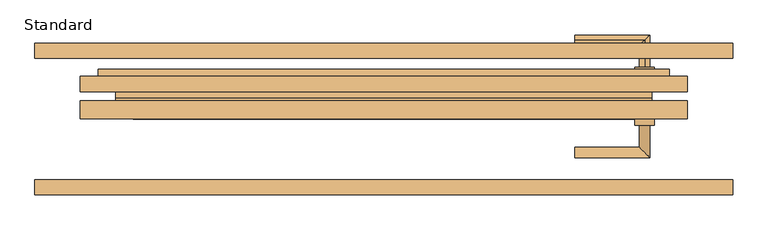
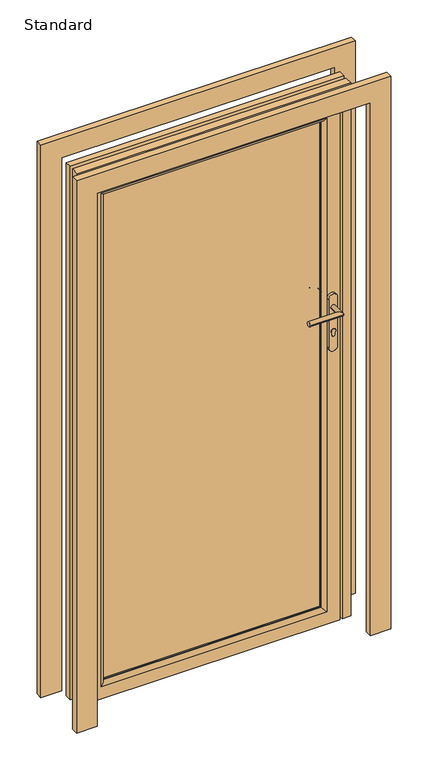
"""IFC4 building model written with IfcOpenShell, lengths in millimetres: door geometry, SMARTS_Visofold1000 : Standard."""

from ifc_helpers import new_model, si_unit, point, frame, frame_2d, origin, place, context, project, spatial, polyline, circle_curve, ellipse_curve, trimmed, segment, composite_curve, outline, extrude, faceted_brep, source, transform, mapped, element, save
from ifc_brep_helpers import plane_surface, cylinder_surface, advanced_brep


def standard_0da18273(model_context):
    return source(origin(), model_context, "Body", "SolidModel", [
        advanced_brep(
        [(430.0, 75.0, 1232.5996413), (430.0, 75.0, 1215.5996413), (430.0, 130.0, 1232.5996413), (430.0, 130.0, 1215.5996413), (315.0, 130.0, 1232.5996413), (315.0, 130.0, 1215.5996413)],
        [
            (0, 1, circle_curve(frame((430.0, 75.0, 1224.0996413), z_axis=(0.0, -1.0, 0.0), x_axis=(0.0, 0.0, -1.0)), 8.5)),
            (1, 0, circle_curve(frame((430.0, 75.0, 1224.0996413), z_axis=(0.0, -1.0, 0.0), x_axis=(0.0, 0.0, -1.0)), 8.5)),
            (0, 2),
            (2, 3, ellipse_curve(frame((430.0, 130.0, 1224.0996413), z_axis=(0.7071067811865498, -0.7071067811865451, 0.0), x_axis=(-0.707106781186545, -0.70710678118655, 0.0)), 12.0208153, 8.5)),
            (3, 1),
            (3, 2, ellipse_curve(frame((430.0, 130.0, 1224.0996413), z_axis=(0.7071067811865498, -0.7071067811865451, 0.0), x_axis=(-0.707106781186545, -0.70710678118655, 0.0)), 12.0208153, 8.5)),
            (4, 5, circle_curve(frame((315.0, 130.0, 1224.0996413), z_axis=(-1.0, 0.0, 0.0), x_axis=(0.0, 0.0, -1.0)), 8.5)),
            (5, 4, circle_curve(frame((315.0, 130.0, 1224.0996413), z_axis=(-1.0, 0.0, 0.0), x_axis=(0.0, 0.0, -1.0)), 8.5)),
            (2, 4),
            (5, 3),
        ],
        [
            plane_surface(frame((430.0, 75.0, 1224.0996413), z_axis=(0.0, -1.0, 0.0), x_axis=(0.0, 0.0, -1.0))),
            cylinder_surface(frame((430.0, 75.0, 1224.0996413), z_axis=(0.0, -1.0, 0.0), x_axis=(0.0, 0.0, -1.0)), 8.5),
            plane_surface(frame((315.0, 130.0, 1224.0996413), z_axis=(-1.0, 0.0, 0.0), x_axis=(0.0, 0.0, -1.0))),
            cylinder_surface(frame((430.0, 130.0, 1224.0996413), z_axis=(1.0, 0.0, 0.0), x_axis=(0.0, 0.0, -1.0)), 8.5),
        ],
        [
            (0, [[1, 2]]),
            (1, [[3, 4, 5, -1]]),
            (1, [[-5, 6, -3, -2]]),
            (2, [[7, 8]]),
            (3, [[9, -8, 10, -4]]),
            (3, [[-10, -7, -9, -6]]),
        ],
    ),
        extrude(outline(composite_curve([segment(polyline([(1258.0996413, 414.0), (1070.0996413, 414.0)]), True, "CONTINUOUS"), segment(trimmed(circle_curve(frame_2d((1070.0996413, 430.0)), 16.0), [point((1070.0996413, 414.0))], [point((1070.0996413, 446.0))], False, "CARTESIAN"), True, "CONTINUOUS"), segment(polyline([(1070.0996413, 446.0), (1258.0996413, 446.0)]), True, "CONTINUOUS"), segment(trimmed(circle_curve(frame_2d((1258.0996413, 430.0)), 16.0), [point((1258.0996413, 446.0))], [point((1258.0996413, 414.0))], False, "CARTESIAN"), True, "CONTINUOUS")], self_intersect=False)), frame((0.0, 75.0, 0.0), z_axis=(0.0, 1.0, 0.0), x_axis=(0.0, 0.0, 1.0)), (0.0, 0.0, 1.0), 10.0),
        advanced_brep(
        [(421.5, 0.0, 1224.0996413), (438.5, 0.0, 1224.0996413), (438.5, -63.5, 1224.0996413), (421.5, -46.5, 1224.0996413), (315.0, -46.5, 1224.0996413), (315.0, -63.5, 1224.0996413)],
        [
            (0, 1, circle_curve(frame((430.0, 0.0, 1224.0996413), z_axis=(0.0, 1.0, 0.0), x_axis=(1.0, 0.0, 0.0)), 8.5)),
            (1, 0, circle_curve(frame((430.0, 0.0, 1224.0996413), z_axis=(0.0, 1.0, 0.0), x_axis=(1.0, 0.0, 0.0)), 8.5)),
            (1, 2),
            (2, 3, ellipse_curve(frame((430.0, -55.0, 1224.0996413), z_axis=(0.7071067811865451, 0.7071067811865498, 0.0), x_axis=(-0.7071067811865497, 0.7071067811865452, 0.0)), 12.0208153, 8.5)),
            (3, 0),
            (3, 2, ellipse_curve(frame((430.0, -55.0, 1224.0996413), z_axis=(0.7071067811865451, 0.7071067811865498, 0.0), x_axis=(-0.7071067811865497, 0.7071067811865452, 0.0)), 12.0208153, 8.5)),
            (4, 5, circle_curve(frame((315.0, -55.0, 1224.0996413), z_axis=(-1.0, 0.0, 0.0), x_axis=(0.0, -1.0, 0.0)), 8.5)),
            (5, 4, circle_curve(frame((315.0, -55.0, 1224.0996413), z_axis=(-1.0, 0.0, 0.0), x_axis=(0.0, -1.0, 0.0)), 8.5)),
            (2, 5),
            (4, 3),
        ],
        [
            plane_surface(frame((430.0, 0.0, 1224.0996413), z_axis=(0.0, 1.0, 0.0), x_axis=(0.0, 0.0, -1.0))),
            cylinder_surface(frame((430.0, 0.0, 1224.0996413), z_axis=(0.0, 1.0, 0.0), x_axis=(1.0, 0.0, 0.0)), 8.5),
            plane_surface(frame((315.0, -55.0, 1224.0996413), z_axis=(-1.0, 0.0, 0.0), x_axis=(0.0, 0.0, -1.0))),
            cylinder_surface(frame((430.0, -55.0, 1224.0996413), z_axis=(1.0, 0.0, 0.0), x_axis=(0.0, -1.0, 0.0)), 8.5),
        ],
        [
            (0, [[1, 2]]),
            (1, [[3, 4, 5, -2]]),
            (1, [[-5, 6, -3, -1]]),
            (2, [[7, 8]]),
            (3, [[9, -7, 10, -4]]),
            (3, [[-10, -8, -9, -6]]),
        ],
    ),
        extrude(outline(composite_curve([segment(polyline([(1258.0996413, 414.0), (1070.0996413, 414.0)]), True, "CONTINUOUS"), segment(trimmed(circle_curve(frame_2d((1070.0996413, 430.0)), 16.0), [point((1070.0996413, 414.0))], [point((1070.0996413, 446.0))], False, "CARTESIAN"), True, "CONTINUOUS"), segment(polyline([(1070.0996413, 446.0), (1258.0996413, 446.0)]), True, "CONTINUOUS"), segment(trimmed(circle_curve(frame_2d((1258.0996413, 430.0)), 16.0), [point((1258.0996413, 446.0))], [point((1258.0996413, 414.0))], False, "CARTESIAN"), True, "CONTINUOUS")], self_intersect=False)), frame((0.0, -10.0, 0.0), z_axis=(0.0, 1.0, 0.0), x_axis=(0.0, 0.0, 1.0)), (0.0, 0.0, 1.0), 10.0),
        extrude(outline(composite_curve([segment(polyline([(1125.1769586, 425.0106229), (1117.5996413, 425.0106229)]), True, "CONTINUOUS"), segment(trimmed(circle_curve(frame_2d((1117.5996413, 430.0106229)), 5.0), [point((1117.5996413, 425.0106229))], [point((1117.5996413, 435.0106229))], False, "CARTESIAN"), True, "CONTINUOUS"), segment(polyline([(1117.5996413, 435.0106229), (1125.27562, 435.0106229)]), True, "CONTINUOUS"), segment(trimmed(circle_curve(frame_2d((1132.0996413, 429.9428094)), 8.5), [point((1125.27562, 435.0106229))], [point((1125.1769586, 425.0106229))], False, "CARTESIAN"), True, "CONTINUOUS")], self_intersect=False)), frame((0.0, 85.0, 0.0), z_axis=(0.0, 1.0, 0.0), x_axis=(0.0, 0.0, 1.0)), (0.0, 0.0, 1.0), 2.0),
        extrude(outline(composite_curve([segment(polyline([(1125.1769586, 425.0106229), (1117.5996413, 425.0106229)]), True, "CONTINUOUS"), segment(trimmed(circle_curve(frame_2d((1117.5996413, 430.0106229)), 5.0), [point((1117.5996413, 425.0106229))], [point((1117.5996413, 435.0106229))], False, "CARTESIAN"), True, "CONTINUOUS"), segment(polyline([(1117.5996413, 435.0106229), (1125.27562, 435.0106229)]), True, "CONTINUOUS"), segment(trimmed(circle_curve(frame_2d((1132.0996413, 429.9428094)), 8.5), [point((1125.27562, 435.0106229))], [point((1125.1769586, 425.0106229))], False, "CARTESIAN"), True, "CONTINUOUS")], self_intersect=False)), frame((0.0, -12.0, 0.0), z_axis=(0.0, 1.0, 0.0), x_axis=(0.0, 0.0, 1.0)), (0.0, 0.0, 1.0), 2.0),
        extrude(outline(polyline([(45.0, 415.0), (1955.0, 415.0), (1955.0, -415.0), (45.0, -415.0), (45.0, 415.0)]), holes=[polyline([(1939.5, 399.5), (60.5, 399.5), (60.5, -399.5), (1939.5, -399.5), (1939.5, 399.5)])]), frame((0.0, 17.4, 0.0), z_axis=(0.0, 1.0, 0.0), x_axis=(0.0, 0.0, 1.0)), (0.0, 0.0, 1.0), 35.0),
        faceted_brep([(460.0, 74.4, 0.0), (460.0, 74.4, 2000.0), (460.0, 52.4, 2000.0), (460.0, 52.4, 0.0), (399.5, 52.4, 60.5), (399.5, 52.4, 1939.5), (399.5, 74.4, 1939.5), (399.5, 74.4, 60.5), (-460.0, 74.4, 0.0), (-460.0, 52.4, 0.0), (-460.0, 74.4, 2000.0), (-460.0, 52.4, 2000.0), (-399.5, 52.4, 1939.5), (-399.5, 74.4, 1939.5), (-399.5, 52.4, 60.5), (-399.5, 74.4, 60.5), (442.1308519, 34.8, 17.8691481), (442.1308519, 34.8, 1982.1308519), (-442.1308519, 34.8, 1982.1308519), (-442.1308519, 34.8, 17.8691481), (415.0, 34.8, 1955.0), (415.0, 34.8, 45.0), (-415.0, 34.8, 45.0), (-415.0, 34.8, 1955.0), (442.1308519, 52.4, 17.8691481), (442.1308519, 52.4, 1982.1308519), (415.0, 52.4, 1955.0), (415.0, 52.4, 45.0), (-442.1308519, 52.4, 1982.1308519), (-415.0, 52.4, 1955.0), (-442.1308519, 52.4, 17.8691481), (-415.0, 52.4, 45.0)], [[[0, 1, 2, 3]], [[4, 5, 6, 7]], [[8, 0, 3, 9]], [[1, 10, 11, 2]], [[5, 12, 13, 6]], [[10, 8, 9, 11]], [[12, 14, 15, 13]], [[1, 0, 8, 10], [7, 6, 13, 15]], [[14, 4, 7, 15]], [[16, 17, 18, 19], [20, 21, 22, 23]], [[24, 25, 17, 16]], [[21, 20, 26, 27]], [[25, 28, 18, 17]], [[20, 23, 29, 26]], [[28, 30, 19, 18]], [[23, 22, 31, 29]], [[30, 24, 16, 19]], [[3, 2, 11, 9], [25, 24, 30, 28]], [[27, 26, 29, 31], [5, 4, 14, 12]], [[22, 21, 27, 31]]]),
        advanced_brep(
        [(399.5, 13.3, 60.5), (399.5, 13.3, 1939.5), (399.5, 17.4, 1939.5), (399.5, 17.4, 60.5), (460.0, 17.4, 0.0), (460.0, 17.4, 2000.0), (460.0, 0.0, 2000.0), (460.0, 0.0, 0.0), (-399.5, 13.3, 1939.5), (-399.5, 17.4, 1939.5), (-460.0, 17.4, 2000.0), (-460.0, 0.0, 2000.0), (-399.5, 13.3, 60.5), (-399.5, 17.4, 60.5), (-460.0, 17.4, 0.0), (-460.0, 0.0, 0.0), (412.8, 0.0, 1952.8), (412.8, 0.0, 47.2), (-412.8, 0.0, 47.2), (-412.8, 0.0, 1952.8), (442.1308519, 34.8, 17.8691481), (442.1308519, 34.8, 1982.1308519), (442.1308519, 17.4, 1982.1308519), (442.1308519, 17.4, 17.8691481), (-442.1308519, 34.8, 1982.1308519), (-442.1308519, 17.4, 1982.1308519), (-442.1308519, 34.8, 17.8691481), (-442.1308519, 17.4, 17.8691481), (415.0, 17.4, 45.0), (415.0, 17.4, 1955.0), (415.0, 34.8, 1955.0), (415.0, 34.8, 45.0), (-415.0, 17.4, 1955.0), (-415.0, 34.8, 1955.0), (-415.0, 17.4, 45.0), (-415.0, 34.8, 45.0)],
        [
            (0, 1),
            (1, 2),
            (2, 3),
            (3, 0),
            (4, 5),
            (5, 6),
            (6, 7),
            (7, 4),
            (1, 8),
            (8, 9),
            (9, 2),
            (5, 10),
            (10, 11),
            (11, 6),
            (8, 12),
            (12, 13),
            (13, 9),
            (10, 14),
            (14, 15),
            (15, 11),
            (12, 0),
            (3, 13),
            (15, 7),
            (16, 17),
            (17, 18),
            (18, 19),
            (19, 16),
            (14, 4),
            (16, 1, ellipse_curve(frame((412.8, 13.3, 1952.8), z_axis=(0.7071067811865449, 0.0, -0.70710678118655), x_axis=(-0.7071067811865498, 0.0, -0.7071067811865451)), 18.8090404, 13.3)),
            (0, 17, ellipse_curve(frame((412.8, 13.3, 47.2), z_axis=(0.70710678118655, 0.0, 0.707106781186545), x_axis=(0.707106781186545, 0.0, -0.7071067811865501)), 18.8090404, 13.3)),
            (19, 8, ellipse_curve(frame((-412.8, 13.3, 1952.8), z_axis=(0.70710678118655, 0.0, 0.7071067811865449), x_axis=(0.7071067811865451, 0.0, -0.7071067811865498)), 18.8090404, 13.3)),
            (18, 12, ellipse_curve(frame((-412.8, 13.3, 47.2), z_axis=(-0.7071067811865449, 0.0, 0.70710678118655), x_axis=(0.7071067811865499, 0.0, 0.707106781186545)), 18.8090404, 13.3)),
            (20, 21),
            (21, 22),
            (22, 23),
            (23, 20),
            (21, 24),
            (24, 25),
            (25, 22),
            (24, 26),
            (26, 27),
            (27, 25),
            (27, 23),
            (26, 20),
            (28, 29),
            (29, 30),
            (30, 31),
            (31, 28),
            (29, 32),
            (32, 33),
            (33, 30),
            (32, 34),
            (34, 35),
            (35, 33),
            (34, 28),
            (31, 35),
        ],
        [
            plane_surface(frame((399.5, 17.4, 60.5), z_axis=(-1.0, 0.0, 0.0), x_axis=(0.0, 0.0, 1.0))),
            plane_surface(frame((460.0, 0.0, 0.0), z_axis=(1.0, 0.0, 0.0), x_axis=(0.0, 0.0, 1.0))),
            plane_surface(frame((399.5, 17.4, 1939.5), z_axis=(0.0, 0.0, -1.0), x_axis=(-1.0, 0.0, 0.0))),
            plane_surface(frame((460.0, 0.0, 2000.0), z_axis=(0.0, 0.0, 1.0), x_axis=(-1.0, 0.0, 0.0))),
            plane_surface(frame((-399.5, 17.4, 1939.5), z_axis=(1.0, 0.0, 0.0), x_axis=(0.0, 0.0, -1.0))),
            plane_surface(frame((-460.0, 0.0, 2000.0), z_axis=(-1.0, 0.0, 0.0), x_axis=(0.0, 0.0, -1.0))),
            plane_surface(frame((-399.5, 17.4, 60.5), z_axis=(0.0, 0.0, 1.0), x_axis=(1.0, 0.0, 0.0))),
            plane_surface(frame((-412.8, 0.0, 47.2), z_axis=(0.0, -1.0, 0.0), x_axis=(1.0, 0.0, 0.0))),
            plane_surface(frame((-460.0, 0.0, 0.0), z_axis=(0.0, 0.0, -1.0), x_axis=(1.0, 0.0, 0.0))),
            cylinder_surface(frame((412.8, 13.3, 0.0), z_axis=(0.0, 0.0, -1.0), x_axis=(0.0, 1.0, 0.0)), 13.3),
            cylinder_surface(frame((460.0, 13.3, 1952.8), z_axis=(1.0, 0.0, 0.0), x_axis=(0.0, 1.0, 0.0)), 13.3),
            cylinder_surface(frame((-412.8, 13.3, 2000.0), z_axis=(0.0, 0.0, 1.0), x_axis=(0.0, 1.0, 0.0)), 13.3),
            cylinder_surface(frame((-460.0, 13.3, 47.2), z_axis=(-1.0, 0.0, 0.0), x_axis=(0.0, 1.0, 0.0)), 13.3),
            plane_surface(frame((442.1308519, 17.4, 17.8691481), z_axis=(1.0, 0.0, 0.0), x_axis=(0.0, 0.0, 1.0))),
            plane_surface(frame((442.1308519, 17.4, 1982.1308519), z_axis=(0.0, 0.0, 1.0), x_axis=(-1.0, 0.0, 0.0))),
            plane_surface(frame((-442.1308519, 17.4, 1982.1308519), z_axis=(-1.0, 0.0, 0.0), x_axis=(0.0, 0.0, -1.0))),
            plane_surface(frame((-460.0, 17.4, 0.0), z_axis=(0.0, 1.0, 0.0), x_axis=(1.0, 0.0, 0.0))),
            plane_surface(frame((-442.1308519, 17.4, 17.8691481), z_axis=(0.0, 0.0, -1.0), x_axis=(1.0, 0.0, 0.0))),
            plane_surface(frame((415.0, 34.8, 45.0), z_axis=(-1.0, 0.0, 0.0), x_axis=(0.0, 0.0, 1.0))),
            plane_surface(frame((415.0, 34.8, 1955.0), z_axis=(0.0, 0.0, -1.0), x_axis=(-1.0, 0.0, 0.0))),
            plane_surface(frame((-415.0, 34.8, 1955.0), z_axis=(1.0, 0.0, 0.0), x_axis=(0.0, 0.0, -1.0))),
            plane_surface(frame((-415.0, 34.8, 45.0), z_axis=(0.0, 0.0, 1.0), x_axis=(1.0, 0.0, 0.0))),
            plane_surface(frame((-415.0, 17.4, 45.0), z_axis=(0.0, 1.0, 0.0), x_axis=(1.0, 0.0, 0.0))),
            plane_surface(frame((-442.1308519, 34.8, 17.8691481), z_axis=(0.0, 1.0, 0.0), x_axis=(1.0, 0.0, 0.0))),
        ],
        [
            (0, [[1, 2, 3, 4]]),
            (1, [[5, 6, 7, 8]]),
            (2, [[9, 10, 11, -2]]),
            (3, [[12, 13, 14, -6]]),
            (4, [[15, 16, 17, -10]]),
            (5, [[18, 19, 20, -13]]),
            (6, [[21, -4, 22, -16]]),
            (7, [[-7, -14, -20, 23], [24, 25, 26, 27]]),
            (8, [[28, -8, -23, -19]]),
            (9, [[-24, 29, -1, 30]]),
            (10, [[-27, 31, -9, -29]]),
            (11, [[-26, 32, -15, -31]]),
            (12, [[-25, -30, -21, -32]]),
            (13, [[33, 34, 35, 36]]),
            (14, [[37, 38, 39, -34]]),
            (15, [[40, 41, 42, -38]]),
            (16, [[-5, -28, -18, -12], [-35, -39, -42, 43]]),
            (17, [[44, -36, -43, -41]]),
            (18, [[45, 46, 47, 48]]),
            (19, [[49, 50, 51, -46]]),
            (20, [[52, 53, 54, -50]]),
            (21, [[55, -48, 56, -53]]),
            (22, [[-45, -55, -52, -49], [-3, -11, -17, -22]]),
            (23, [[-33, -44, -40, -37], [-47, -51, -54, -56]]),
        ],
    ),
        extrude(outline(polyline([(399.5, 50.1484783), (399.5, 21.4), (-399.5, 21.4), (-399.5, 50.1484783), (399.5, 50.1484783)])), frame((0.0, 0.0, 60.5), z_axis=(0.0, 0.0, 1.0), x_axis=(1.0, 0.0, 0.0)), (0.0, 0.0, 1.0), 1879.0),
        extrude(outline(polyline([(2058.6516063, -500.0), (2058.6516063, 500.0), (0.0, 500.0), (0.0, 575.0), (2133.6516063, 575.0), (2133.6516063, -575.0), (0.0, -575.0), (0.0, -500.0), (2058.6516063, -500.0)])), frame((0.0, 100.0, 0.0), z_axis=(0.0, 1.0, 0.0), x_axis=(0.0, 0.0, 1.0)), (0.0, 0.0, 1.0), 25.0),
        extrude(outline(polyline([(2133.6516063, -575.0), (0.0, -575.0), (0.0, -500.0), (2058.6516063, -500.0), (2058.6516063, 500.0), (0.0, 500.0), (0.0, 575.0), (2133.6516063, 575.0), (2133.6516063, -575.0)])), frame((0.0, -125.0, 0.0), z_axis=(0.0, 1.0, 0.0), x_axis=(0.0, 0.0, 1.0)), (0.0, 0.0, 1.0), 25.0),
        extrude(outline(polyline([(0.0, 468.8), (0.0, 500.0), (2058.6516063, 500.0), (2058.6516063, -500.0), (0.0, -500.0), (0.0, -468.8), (2027.4516063, -468.8), (2027.4516063, 468.8), (0.0, 468.8)])), frame((0.0, 0.0, 0.0), z_axis=(0.0, 1.0, 0.0), x_axis=(0.0, 0.0, 1.0)), (0.0, 0.0, 1.0), 29.65),
        faceted_brep([(500.0, 44.85, 0.0), (468.8, 44.85, 0.0), (468.8, 77.4, 0.0), (448.3, 77.4, 0.0), (448.3, 81.9, 0.0), (470.6, 81.9, 0.0), (470.6, 70.0, 0.0), (500.0, 70.0, 0.0), (500.0, 44.85, 2058.6516063), (-500.0, 44.85, 2058.6516063), (-500.0, 44.85, 0.0), (-468.8, 44.85, 0.0), (-468.8, 44.85, 2027.4516063), (468.8, 44.85, 2027.4516063), (468.8, 77.4, 2027.4516063), (-468.8, 77.4, 2027.4516063), (-468.8, 77.4, 0.0), (-448.3, 77.4, 0.0), (-448.3, 77.4, 2006.9516063), (448.3, 77.4, 2006.9516063), (448.3, 81.9, 2006.9516063), (-448.3, 81.9, 2006.9516063), (-448.3, 81.9, 0.0), (-470.6, 81.9, 0.0), (-470.6, 81.9, 2029.2516063), (470.6, 81.9, 2029.2516063), (470.6, 70.0, 2029.2516063), (-470.6, 70.0, 2029.2516063), (-470.6, 70.0, 0.0), (-500.0, 70.0, 0.0), (-500.0, 70.0, 2058.6516063), (500.0, 70.0, 2058.6516063)], [[[0, 1, 2, 3, 4, 5, 6, 7]], [[1, 0, 8, 9, 10, 11, 12, 13]], [[2, 1, 13, 14]], [[3, 2, 14, 15, 16, 17, 18, 19]], [[4, 3, 19, 20]], [[5, 4, 20, 21, 22, 23, 24, 25]], [[6, 5, 25, 26]], [[7, 6, 26, 27, 28, 29, 30, 31]], [[0, 7, 31, 8]], [[10, 29, 28, 23, 22, 17, 16, 11]], [[9, 30, 29, 10]], [[27, 24, 23, 28]], [[21, 18, 17, 22]], [[15, 12, 11, 16]], [[8, 31, 30, 9]], [[14, 13, 12, 15]], [[26, 25, 24, 27]], [[20, 19, 18, 21]]]),
    ])


if __name__ == "__main__":
    model = new_model("IFC4")
    model_context = context("Model", 3, world=origin())
    ifc_project = project(units=[si_unit("LENGTHUNIT", "METRE", prefix="MILLI")], contexts=[model_context])
    site = spatial("IfcSite", under=ifc_project)
    building = spatial("IfcBuilding", under=site)
    placement = place(None, origin())
    standard_shape = standard_0da18273(model_context)
    element("IfcDoor", 1, ObjectType="SMARTS_Visofold1000 : Standard", at=placement, inside=building, context=model_context, shape_type="MappedRepresentation", body=[
        mapped(standard_shape, transform((0.0, 0.0, 0.0), x_axis=(1.0, 0.0, 0.0), y_axis=(0.0, 1.0, 0.0), z_axis=(0.0, 0.0, 1.0))),
    ])
    save(model, "model.ifc")
